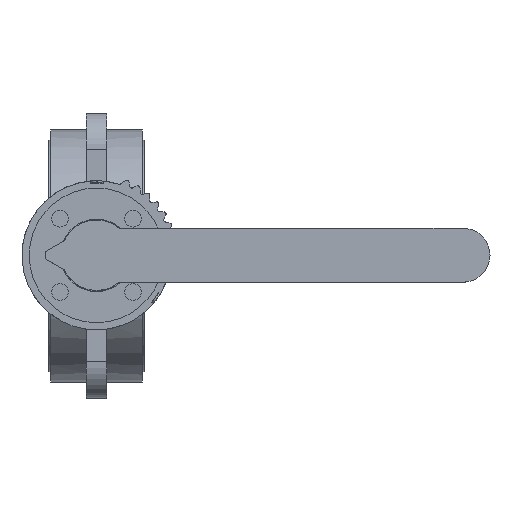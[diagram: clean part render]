
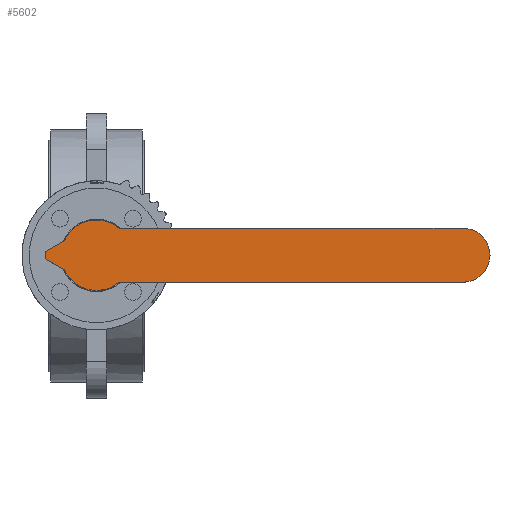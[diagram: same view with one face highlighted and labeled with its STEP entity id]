
A CAD part, top view. The second image highlights one B-rep face of the part: STEP entity #5602.
In plain terms, the highlighted planar face has unit normal (0, 0, 1).
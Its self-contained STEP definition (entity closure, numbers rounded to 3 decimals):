
#5602=ADVANCED_FACE('',(#10956),#10958,.T.);
#10956=FACE_BOUND('',#10957,.T.);
#10957=EDGE_LOOP('',(#15229,#15230,#15231,#15232,#15233,#15234,#15235,#15236,#15237,
#15238,#15239));
#10958=PLANE('',#10959);
#10959=AXIS2_PLACEMENT_3D('',#10960,#10961,#10962);
#10960=CARTESIAN_POINT('',(-1.545,-4.755,210.));
#10961=DIRECTION('',(0.,0.,1.));
#10962=DIRECTION('',(0.951,-0.309,0.));
#15229=ORIENTED_EDGE('',*,*,#17628,.F.);
#15230=ORIENTED_EDGE('',*,*,#17629,.T.);
#15231=ORIENTED_EDGE('',*,*,#17630,.T.);
#15232=ORIENTED_EDGE('',*,*,#17631,.T.);
#15233=ORIENTED_EDGE('',*,*,#17632,.T.);
#15234=ORIENTED_EDGE('',*,*,#17633,.T.);
#15235=ORIENTED_EDGE('',*,*,#17634,.T.);
#15236=ORIENTED_EDGE('',*,*,#17635,.T.);
#15237=ORIENTED_EDGE('',*,*,#17636,.T.);
#15238=ORIENTED_EDGE('',*,*,#17637,.T.);
#15239=ORIENTED_EDGE('',*,*,#17638,.T.);
#17628=EDGE_CURVE('',#20906,#20907,#20908,.F.);
#17629=EDGE_CURVE('',#20906,#20909,#20910,.T.);
#17630=EDGE_CURVE('',#20909,#20911,#20912,.T.);
#17631=EDGE_CURVE('',#20911,#20913,#20914,.T.);
#17632=EDGE_CURVE('',#20913,#20915,#20916,.T.);
#17633=EDGE_CURVE('',#20915,#20917,#20918,.T.);
#17634=EDGE_CURVE('',#20917,#20919,#20920,.T.);
#17635=EDGE_CURVE('',#20919,#20921,#20922,.T.);
#17636=EDGE_CURVE('',#20921,#20923,#20924,.T.);
#17637=EDGE_CURVE('',#20923,#20925,#20926,.T.);
#17638=EDGE_CURVE('',#20925,#20907,#20927,.T.);
#20906=VERTEX_POINT('',#29771);
#20907=VERTEX_POINT('',#29772);
#20908=CIRCLE('',#29773,13.);
#20909=VERTEX_POINT('',#29777);
#20910=LINE('',#29778,#29779);
#20911=VERTEX_POINT('',#29781);
#20912=CIRCLE('',#29782,17.);
#20913=VERTEX_POINT('',#29786);
#20914=CIRCLE('',#29787,17.);
#20915=VERTEX_POINT('',#29791);
#20916=CIRCLE('',#29792,3.);
#20917=VERTEX_POINT('',#29796);
#20918=LINE('',#29797,#29798);
#20919=VERTEX_POINT('',#29800);
#20920=CIRCLE('',#29801,3.);
#20921=VERTEX_POINT('',#29805);
#20922=LINE('',#29806,#29807);
#20923=VERTEX_POINT('',#29809);
#20924=CIRCLE('',#29810,3.);
#20925=VERTEX_POINT('',#29814);
#20926=CIRCLE('',#29815,17.);
#20927=LINE('',#29819,#29820);
#29771=CARTESIAN_POINT('',(177.,13.,210.));
#29772=CARTESIAN_POINT('',(177.,-13.,210.));
#29773=AXIS2_PLACEMENT_3D('',#29774,#29775,#29776);
#29774=CARTESIAN_POINT('',(177.,0.,210.));
#29775=DIRECTION('',(0.,0.,1.));
#29776=DIRECTION('',(0.,-1.,0.));
#29777=CARTESIAN_POINT('',(10.954,13.,210.));
#29778=CARTESIAN_POINT('',(177.,13.,210.));
#29779=VECTOR('',#29780,1.);
#29780=DIRECTION('',(-1.,0.,0.));
#29781=CARTESIAN_POINT('',(2.659,16.791,210.));
#29782=AXIS2_PLACEMENT_3D('',#29783,#29784,#29785);
#29783=CARTESIAN_POINT('',(0.,0.,210.));
#29784=DIRECTION('',(0.,0.,1.));
#29785=DIRECTION('',(0.644,0.765,0.));
#29786=CARTESIAN_POINT('',(-15.113,7.785,210.));
#29787=AXIS2_PLACEMENT_3D('',#29788,#29789,#29790);
#29788=CARTESIAN_POINT('',(0.,0.,210.));
#29789=DIRECTION('',(0.,0.,1.));
#29790=DIRECTION('',(0.156,0.988,0.));
#29791=CARTESIAN_POINT('',(-16.317,6.539,210.));
#29792=AXIS2_PLACEMENT_3D('',#29793,#29794,#29795);
#29793=CARTESIAN_POINT('',(-17.78,9.159,210.));
#29794=DIRECTION('',(0.,0.,-1.));
#29795=DIRECTION('',(0.889,-0.458,0.));
#29796=CARTESIAN_POINT('',(-23.338,2.619,210.));
#29797=CARTESIAN_POINT('',(-16.317,6.539,210.));
#29798=VECTOR('',#29799,1.);
#29799=DIRECTION('',(-0.873,-0.487,0.));
#29800=CARTESIAN_POINT('',(-23.338,-2.619,210.));
#29801=AXIS2_PLACEMENT_3D('',#29802,#29803,#29804);
#29802=CARTESIAN_POINT('',(-21.876,0.,210.));
#29803=DIRECTION('',(0.,0.,1.));
#29804=DIRECTION('',(-0.487,0.873,0.));
#29805=CARTESIAN_POINT('',(-16.317,-6.539,210.));
#29806=CARTESIAN_POINT('',(-23.338,-2.619,210.));
#29807=VECTOR('',#29808,1.);
#29808=DIRECTION('',(0.873,-0.487,0.));
#29809=CARTESIAN_POINT('',(-15.113,-7.785,210.));
#29810=AXIS2_PLACEMENT_3D('',#29811,#29812,#29813);
#29811=CARTESIAN_POINT('',(-17.78,-9.159,210.));
#29812=DIRECTION('',(0.,0.,-1.));
#29813=DIRECTION('',(0.487,0.873,0.));
#29814=CARTESIAN_POINT('',(10.954,-13.,210.));
#29815=AXIS2_PLACEMENT_3D('',#29816,#29817,#29818);
#29816=CARTESIAN_POINT('',(0.,0.,210.));
#29817=DIRECTION('',(0.,0.,1.));
#29818=DIRECTION('',(-0.889,-0.458,0.));
#29819=CARTESIAN_POINT('',(10.954,-13.,210.));
#29820=VECTOR('',#29821,1.);
#29821=DIRECTION('',(1.,0.,0.));
